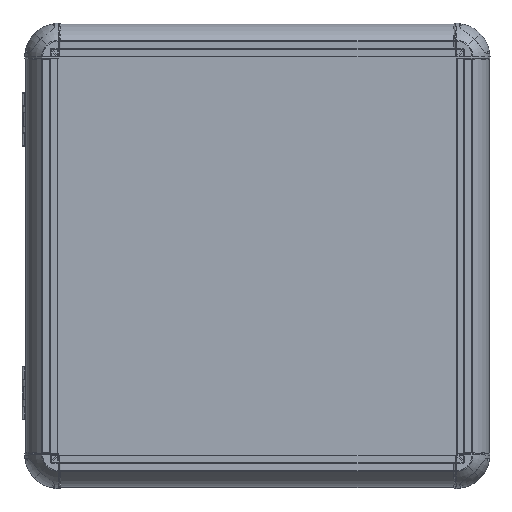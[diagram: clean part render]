
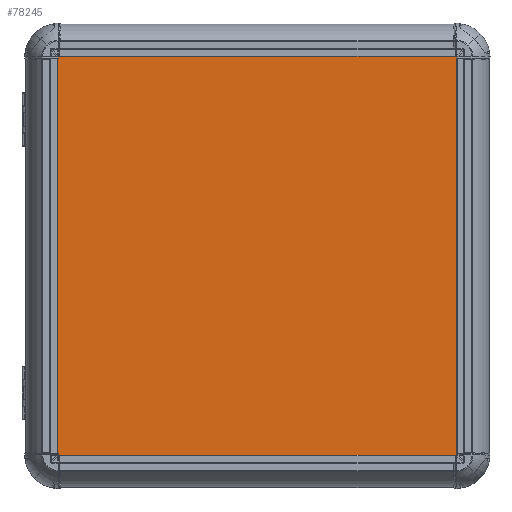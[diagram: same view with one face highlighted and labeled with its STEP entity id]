
A CAD part, top view. The second image highlights one B-rep face of the part: STEP entity #78245.
In plain terms, the highlighted planar face has unit normal (0, 0, 1).
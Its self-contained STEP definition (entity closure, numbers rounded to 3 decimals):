
#3240 = LINE ( 'NONE', #52434, #98694 ) ;
#6400 = FACE_OUTER_BOUND ( 'NONE', #143346, .T. ) ;
#14164 = EDGE_CURVE ( 'NONE', #103028, #122860, #30595, .T. ) ;
#16343 = AXIS2_PLACEMENT_3D ( 'NONE', #102947, #65860, #137101 ) ;
#23183 = ORIENTED_EDGE ( 'NONE', *, *, #128339, .T. ) ;
#26336 = LINE ( 'NONE', #148207, #28187 ) ;
#28187 = VECTOR ( 'NONE', #50899, 1000. ) ;
#30595 = LINE ( 'NONE', #101713, #126771 ) ;
#33667 = CARTESIAN_POINT ( 'NONE',  ( 150., 150., 2. ) ) ;
#44766 = DIRECTION ( 'NONE',  ( 0., 1., 0. ) ) ;
#50899 = DIRECTION ( 'NONE',  ( 0., -1., 0. ) ) ;
#52434 = CARTESIAN_POINT ( 'NONE',  ( -150., -150., 2. ) ) ;
#53993 = PLANE ( 'NONE',  #16343 ) ;
#56583 = LINE ( 'NONE', #33667, #130401 ) ;
#59296 = ORIENTED_EDGE ( 'NONE', *, *, #132672, .T. ) ;
#64997 = CARTESIAN_POINT ( 'NONE',  ( -150., 150., 2. ) ) ;
#65860 = DIRECTION ( 'NONE',  ( 0., 0., 1. ) ) ;
#66767 = ORIENTED_EDGE ( 'NONE', *, *, #94867, .T. ) ;
#78245 = ADVANCED_FACE ( 'NONE', ( #6400 ), #53993, .T. ) ;
#87909 = DIRECTION ( 'NONE',  ( 1., 0., 0. ) ) ;
#94867 = EDGE_CURVE ( 'NONE', #132657, #103054, #3240, .T. ) ;
#98694 = VECTOR ( 'NONE', #87909, 1000. ) ;
#101713 = CARTESIAN_POINT ( 'NONE',  ( -150., 150., 2. ) ) ;
#102947 = CARTESIAN_POINT ( 'NONE',  ( 0., 0., 2. ) ) ;
#103028 = VERTEX_POINT ( 'NONE', #107595 ) ;
#103054 = VERTEX_POINT ( 'NONE', #134510 ) ;
#107595 = CARTESIAN_POINT ( 'NONE',  ( 150., 150., 2. ) ) ;
#114120 = ORIENTED_EDGE ( 'NONE', *, *, #14164, .T. ) ;
#122860 = VERTEX_POINT ( 'NONE', #64997 ) ;
#125574 = DIRECTION ( 'NONE',  ( -1., 0., 0. ) ) ;
#126771 = VECTOR ( 'NONE', #125574, 1000. ) ;
#128339 = EDGE_CURVE ( 'NONE', #122860, #132657, #26336, .T. ) ;
#130401 = VECTOR ( 'NONE', #44766, 1000. ) ;
#132657 = VERTEX_POINT ( 'NONE', #136609 ) ;
#132672 = EDGE_CURVE ( 'NONE', #103054, #103028, #56583, .T. ) ;
#134510 = CARTESIAN_POINT ( 'NONE',  ( 150., -150., 2. ) ) ;
#136609 = CARTESIAN_POINT ( 'NONE',  ( -150., -150., 2. ) ) ;
#137101 = DIRECTION ( 'NONE',  ( 1., 0., 0. ) ) ;
#143346 = EDGE_LOOP ( 'NONE', ( #59296, #114120, #23183, #66767 ) ) ;
#148207 = CARTESIAN_POINT ( 'NONE',  ( -150., 150., 2. ) ) ;
